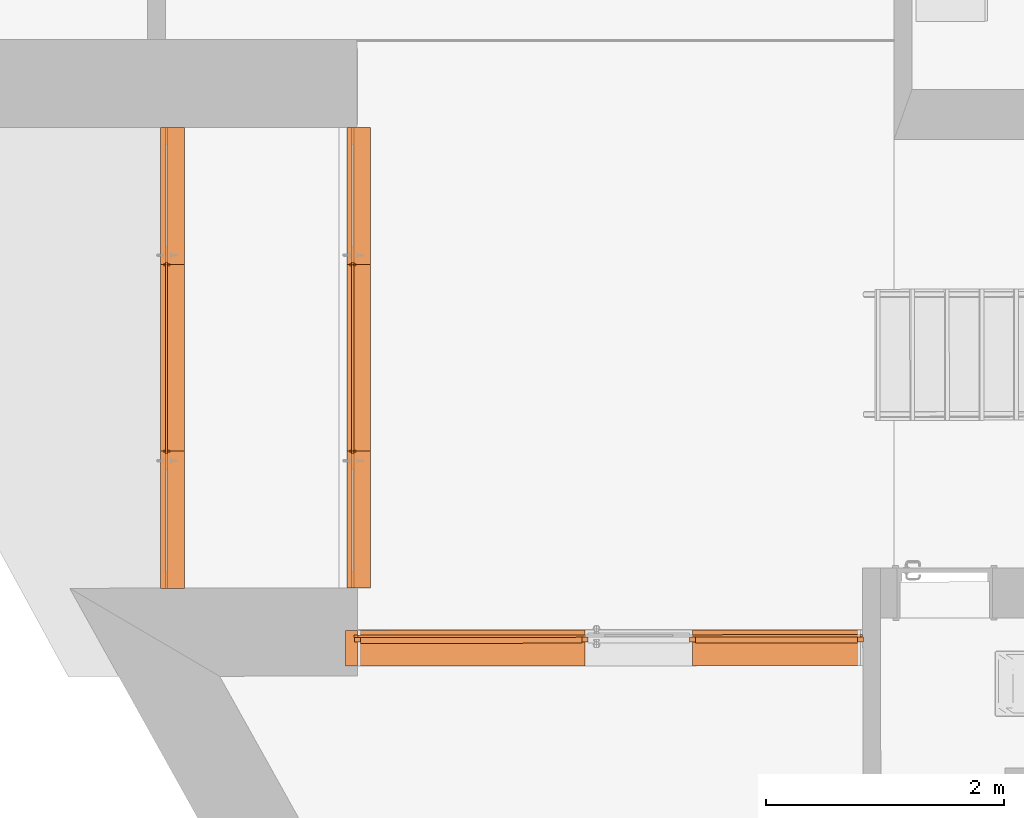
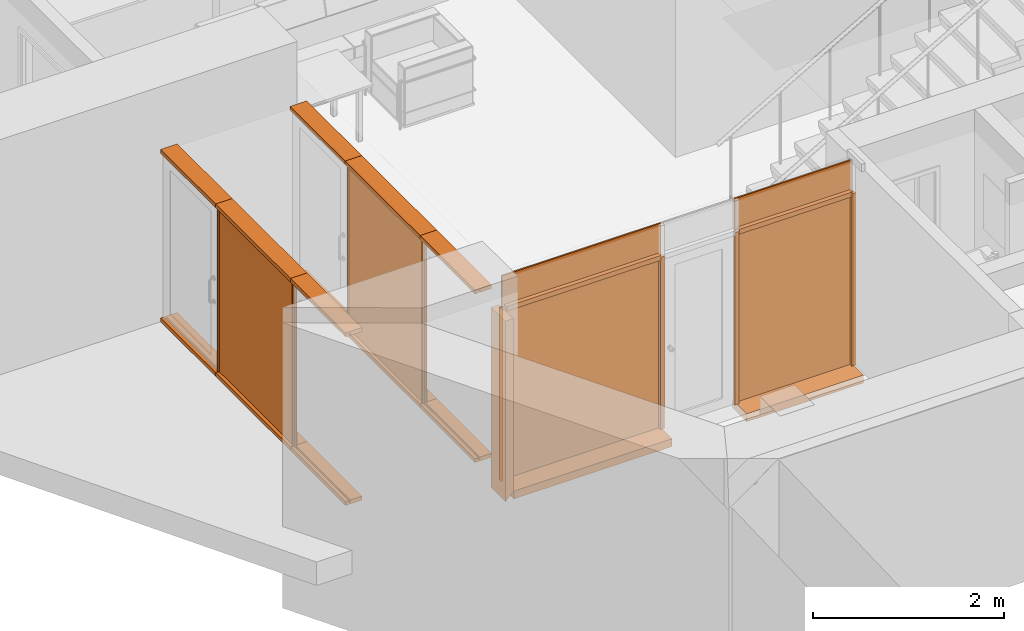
# One storey, part 114 of 127: 33 proxies, 3 elements without a shape of their own.
"""IFC2X3 building model written with IfcOpenShell, lengths in millimetres."""

from ifc_helpers import new_model, entity, si_unit, converted_unit, derived_unit, money_unit, direction, frame, origin_with_axes, place, context, subcontext, project, spatial, polyline, outline, extrude, clip, halfspace, material, material_list, type_object, element, aggregate, save


model = new_model("IFC2X3")

# Units and contexts
model_context = context("Model", 3, precision=1e-05, world=origin_with_axes(), true_north=direction((0.0, 1.0)))
body_context = subcontext(model_context, "Body", "Model", "MODEL_VIEW")
ifc_project = project(units=[si_unit("LENGTHUNIT", "METRE", prefix="MILLI"), si_unit("AREAUNIT", "SQUARE_METRE"), si_unit("VOLUMEUNIT", "CUBIC_METRE"), converted_unit("PLANEANGLEUNIT", "DEGREE", entity("IfcPlaneAngleMeasure", 0.0174532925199), si_unit("PLANEANGLEUNIT", "RADIAN"), dimensions=[0, 0, 0, 0, 0, 0, 0]), si_unit("SOLIDANGLEUNIT", "STERADIAN"), money_unit("EUR"), converted_unit("TIMEUNIT", "Year", entity("IfcTimeMeasure", 31556926.0), si_unit("TIMEUNIT", "SECOND"), dimensions=[0, 0, 1, 0, 0, 0, 0]), si_unit("MASSUNIT", "GRAM", prefix="KILO"), si_unit("THERMODYNAMICTEMPERATUREUNIT", "DEGREE_CELSIUS"), si_unit("LUMINOUSINTENSITYUNIT", "LUMEN"), si_unit("ENERGYUNIT", "JOULE", prefix="MEGA"), derived_unit("THERMALCONDUCTANCEUNIT", [(si_unit("POWERUNIT", "WATT"), 1), (si_unit("LENGTHUNIT", "METRE"), -1), (si_unit("THERMODYNAMICTEMPERATUREUNIT", "KELVIN"), -1)]), derived_unit("SPECIFICHEATCAPACITYUNIT", [(si_unit("ENERGYUNIT", "JOULE"), 1), (si_unit("MASSUNIT", "GRAM", prefix="KILO"), -1), (si_unit("THERMODYNAMICTEMPERATUREUNIT", "KELVIN"), -1)]), derived_unit("MASSDENSITYUNIT", [(si_unit("MASSUNIT", "GRAM", prefix="KILO"), 1), (si_unit("VOLUMEUNIT", "CUBIC_METRE"), -1)])], contexts=[model_context])

# Site, building, storey
site_placement = place(None, origin_with_axes())
site = spatial("IfcSite", under=ifc_project, at=site_placement, Name="Site", CompositionType="ELEMENT")
building_placement = place(site_placement, origin_with_axes())
building = spatial("IfcBuilding", under=site, at=building_placement, Name="Building", CompositionType="ELEMENT")
storey_placement = place(building_placement, origin_with_axes())
storey = spatial("IfcBuildingStorey", under=building, at=storey_placement, Name="1 KORRUS", CompositionType="ELEMENT", Elevation=0.0)

# Curtain wall, proxy
curtain_wall_type_1 = type_object("IfcCurtainWallType", Name="VU-2", PredefinedType="NOTDEFINED")
curtain_wall_1_placement = place(storey_placement, frame((18897.7258144, 42128.0459009, 25.0), z_axis=(0.0, 0.0, 1.0), x_axis=(1.0, 0.0, 0.0)))
curtain_wall_1 = element("IfcCurtainWall", 1, at=curtain_wall_1_placement, inside=storey, type_object=curtain_wall_type_1, Name="Välisuks")
ifc_material_1 = material(Name="Klaas (1)")
building_element_proxy_type_1 = type_object("IfcBuildingElementProxyType", Name="Panel-Main-004", PredefinedType="NOTDEFINED")
proxy_1_placement = place(curtain_wall_1_placement, frame((0.0, -1357.77395773, 1075.0), z_axis=(0.0, 0.0, 1.0), x_axis=(0.0, 1.0, 0.0)))
proxy_1 = element("IfcBuildingElementProxy", 2, at=proxy_1_placement, type_object=building_element_proxy_type_1, material=ifc_material_1, Name="Klaas (1);  Objekti nimi: Built-in CW Panel", context=body_context, shape_type="SweptSolid", body=[
    extrude(outline(polyline([(-782.773957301, -1080.0), (782.773950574, -1080.0), (782.773950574, -1075.00001431), (802.773957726, -1075.00001431), (802.773957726, 1075.00001431), (782.773950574, 1074.99998212), (782.773950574, 1080.0), (-782.773989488, 1080.0), (-782.773989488, 1074.99998212), (-802.773964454, 1074.99998212), (-802.773964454, -1075.00001431), (-782.773957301, -1075.00001431), (-782.773957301, -1080.0)])), frame((0.0, -9.99999999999, 0.0), z_axis=(0.0, 1.0, 0.0), x_axis=(1.0, 0.0, 0.0)), (0.0, 0.0, 1.0), 20.0),
])

curtain_wall_type_2 = type_object("IfcCurtainWallType", Name="SU-2", PredefinedType="NOTDEFINED")
curtain_wall_2_placement = place(storey_placement, frame((20461.0776503, 42128.0462024, 25.0), z_axis=(0.0, 0.0, 1.0), x_axis=(1.0, 0.0, 0.0)))
curtain_wall_2 = element("IfcCurtainWall", 3, at=curtain_wall_2_placement, inside=storey, type_object=curtain_wall_type_2, Name="Siseuks")
proxy_2_placement = place(curtain_wall_2_placement, frame((-0.0408153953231, -1357.71344018, 1075.0), z_axis=(0.0, 0.0, 1.0), x_axis=(3.00618629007e-05, 0.999999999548, 0.0)))
proxy_2 = element("IfcBuildingElementProxy", 4, at=proxy_2_placement, type_object=building_element_proxy_type_1, material=ifc_material_1, Name="Klaas (1);  Objekti nimi: Built-in CW Panel", context=body_context, shape_type="SweptSolid", body=[
    extrude(outline(polyline([(-782.713452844, -1080.0), (782.713433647, -1080.0), (782.713433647, -1075.00001431), (802.713440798, -1075.00001431), (802.713440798, 1075.00001431), (782.713433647, 1074.99998212), (782.713433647, 1080.0), (-782.713452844, 1080.0), (-782.713452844, 1074.99998212), (-802.713459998, 1074.99998212), (-802.713459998, -1075.00001431), (-782.713452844, -1075.00001431), (-782.713452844, -1080.0)])), frame((0.0, -9.99999999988, 0.0), z_axis=(0.0, 1.0, 0.0), x_axis=(1.0, 0.0, 0.0)), (0.0, 0.0, 1.0), 20.0000000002),
])

# Proxy
ifc_material_2 = material(Name="Alumiinium (1)")
building_element_proxy_type_2 = type_object("IfcBuildingElementProxyType", Name="Frame-Bnd-126", PredefinedType="NOTDEFINED")
proxy_3_placement = place(curtain_wall_1_placement, frame((0.0, 575.000000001, 0.0), z_axis=(0.0, -1.0, 0.0), x_axis=(0.0, 0.0, 1.0)))
proxy_3 = element("IfcBuildingElementProxy", 5, at=proxy_3_placement, type_object=building_element_proxy_type_2, material=ifc_material_2, Name="Alumiinium (1);  Objekti nimi: Built-in Frame", context=body_context, shape_type="SweptSolid", body=[
    extrude(outline(polyline([(-9.99999999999, 0.0), (9.99999999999, 0.0), (9.99999999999, -25.0), (50.0, -25.0), (50.0, 25.0), (-150.0, 25.0), (-150.0, -25.0), (-9.99999999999, -25.0), (-9.99999999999, 0.0)])), frame((0.0, 0.0, 0.0), z_axis=(0.0, 0.0, 1.0), x_axis=(0.0, 1.0, 0.0)), (0.0, 0.0, 1.0), 1150.0),
])

proxy_4_placement = place(curtain_wall_1_placement, frame((0.0, 575.000000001, 2150.0), z_axis=(0.0, -1.0, 0.0), x_axis=(0.0, 0.0, 1.0)))
proxy_4 = element("IfcBuildingElementProxy", 6, at=proxy_4_placement, type_object=building_element_proxy_type_2, material=ifc_material_2, Name="Alumiinium (1);  Objekti nimi: Built-in Frame", context=body_context, shape_type="SweptSolid", body=[
    extrude(outline(polyline([(-9.99999999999, 0.0), (-9.99999999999, 25.0), (-150.0, 25.0), (-150.0, -25.0), (50.0, -25.0), (50.0, 25.0), (9.99999999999, 25.0), (9.99999999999, 0.0), (-9.99999999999, 0.0)])), frame((0.0, 0.0, 0.0), z_axis=(0.0, 0.0, 1.0), x_axis=(0.0, 1.0, 0.0)), (0.0, 0.0, 1.0), 1150.0),
])

proxy_5_placement = place(curtain_wall_1_placement, frame((0.0, -2140.54791545, 0.0), z_axis=(0.0, -1.0, 0.0), x_axis=(0.0, 0.0, 1.0)))
proxy_5 = element("IfcBuildingElementProxy", 7, at=proxy_5_placement, type_object=building_element_proxy_type_2, material=ifc_material_2, Name="Alumiinium (1);  Objekti nimi: Built-in Frame", context=body_context, shape_type="SweptSolid", body=[
    extrude(outline(polyline([(-9.99999999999, 0.0), (9.99999999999, 0.0), (9.99999999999, -25.0), (50.0, -25.0), (50.0, 25.0), (-150.0, 25.0), (-150.0, -25.0), (-9.99999999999, -25.0), (-9.99999999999, 0.0)])), frame((0.0, 0.0, 0.0), z_axis=(0.0, 0.0, 1.0), x_axis=(0.0, 1.0, 0.0)), (0.0, 0.0, 1.0), 1150.0),
])

proxy_6_placement = place(curtain_wall_1_placement, frame((0.0, -2140.54791545, 2150.0), z_axis=(0.0, -1.0, 0.0), x_axis=(0.0, 0.0, 1.0)))
proxy_6 = element("IfcBuildingElementProxy", 8, at=proxy_6_placement, type_object=building_element_proxy_type_2, material=ifc_material_2, Name="Alumiinium (1);  Objekti nimi: Built-in Frame", context=body_context, shape_type="SweptSolid", body=[
    extrude(outline(polyline([(-9.99999999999, 0.0), (-9.99999999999, 25.0), (-150.0, 25.0), (-150.0, -25.0), (50.0, -25.0), (50.0, 25.0), (9.99999999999, 25.0), (9.99999999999, 0.0), (-9.99999999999, 0.0)])), frame((0.0, 0.0, 0.0), z_axis=(0.0, 0.0, 1.0), x_axis=(0.0, 1.0, 0.0)), (0.0, 0.0, 1.0), 1150.0),
])

proxy_7_placement = place(curtain_wall_1_placement, frame((0.0, -575.000000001, 2150.0), z_axis=(0.0, -1.0, 0.0), x_axis=(0.0, 0.0, 1.0)))
proxy_7 = element("IfcBuildingElementProxy", 9, at=proxy_7_placement, type_object=building_element_proxy_type_2, material=ifc_material_2, Name="Alumiinium (1);  Objekti nimi: Built-in Frame", context=body_context, shape_type="SweptSolid", body=[
    extrude(outline(polyline([(-9.99999999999, 0.0), (-9.99999999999, 25.0), (-150.0, 25.0), (-150.0, -25.0), (50.0, -25.0), (50.0, 25.0), (9.99999999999, 25.0), (9.99999999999, 0.0), (-9.99999999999, 0.0)])), frame((0.0, 0.0, 0.0), z_axis=(0.0, 0.0, 1.0), x_axis=(0.0, 1.0, 0.0)), (0.0, 0.0, 1.0), 1565.54791546),
])

proxy_8_placement = place(curtain_wall_1_placement, frame((0.0, -575.000000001, 0.0), z_axis=(0.0, -1.0, 0.0), x_axis=(0.0, 0.0, 1.0)))
proxy_8 = element("IfcBuildingElementProxy", 10, at=proxy_8_placement, type_object=building_element_proxy_type_2, material=ifc_material_2, Name="Alumiinium (1);  Objekti nimi: Built-in Frame", context=body_context, shape_type="SweptSolid", body=[
    extrude(outline(polyline([(-9.99999999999, 0.0), (9.99999999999, 0.0), (9.99999999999, -25.0), (50.0, -25.0), (50.0, 25.0), (-150.0, 25.0), (-150.0, -25.0), (-9.99999999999, -25.0), (-9.99999999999, 0.0)])), frame((0.0, 0.0, 0.0), z_axis=(0.0, 0.0, 1.0), x_axis=(0.0, 1.0, 0.0)), (0.0, 0.0, 1.0), 1565.54791546),
])

ifc_material_list = material_list([ifc_material_2, ifc_material_2])
building_element_proxy_type_3 = type_object("IfcBuildingElementProxyType", Name="Frame-Mll-040", PredefinedType="NOTDEFINED")
proxy_9_placement = place(curtain_wall_1_placement, frame((0.0, -575.000000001, 0.0), z_axis=(0.0, 0.0, 1.0), x_axis=(0.0, 1.0, 0.0)))
proxy_9 = element("IfcBuildingElementProxy", 11, at=proxy_9_placement, type_object=building_element_proxy_type_3, material=ifc_material_list, Name="Alumiinium (1);  Objekti nimi: Built-in Frame", context=body_context, shape_type="SweptSolid", body=[
    extrude(outline(polyline([(9.99999999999, -10.0000000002), (25.0, -10.0000000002), (25.0, 10.0000000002), (9.99999999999, 10.0000000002), (9.99999999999, -10.0000000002)])), frame((0.0, 0.0, 25.0), z_axis=(0.0, 0.0, 1.0), x_axis=(0.0, -1.0, 0.0)), (0.0, 0.0, 1.0), 2100.0),
    extrude(outline(polyline([(-9.99999999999, -10.0000000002), (-9.99999999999, 10.0000000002), (-25.0, 10.0000000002), (-25.0, -10.0000000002), (-9.99999999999, -10.0000000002)])), frame((0.0, 0.0, 25.0), z_axis=(0.0, 0.0, 1.0), x_axis=(0.0, -1.0, 0.0)), (0.0, 0.0, 1.0), 2100.0),
])

proxy_10_placement = place(curtain_wall_1_placement, frame((0.0, -2140.54791545, 0.0), z_axis=(0.0, 0.0, 1.0), x_axis=(0.0, 1.0, 0.0)))
proxy_10 = element("IfcBuildingElementProxy", 12, at=proxy_10_placement, type_object=building_element_proxy_type_3, material=ifc_material_list, Name="Alumiinium (1);  Objekti nimi: Built-in Frame", context=body_context, shape_type="SweptSolid", body=[
    extrude(outline(polyline([(9.99999999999, -10.0000000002), (25.0, -10.0000000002), (25.0, 10.0000000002), (9.99999999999, 10.0000000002), (9.99999999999, -10.0000000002)])), frame((0.0, 0.0, 25.0), z_axis=(0.0, 0.0, 1.0), x_axis=(0.0, -1.0, 0.0)), (0.0, 0.0, 1.0), 2100.0),
    extrude(outline(polyline([(-9.99999999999, -10.0000000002), (-9.99999999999, 10.0000000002), (-25.0, 10.0000000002), (-25.0, -10.0000000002), (-9.99999999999, -10.0000000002)])), frame((0.0, 0.0, 25.0), z_axis=(0.0, 0.0, 1.0), x_axis=(0.0, -1.0, 0.0)), (0.0, 0.0, 1.0), 2100.0),
])

aggregate(curtain_wall_1, [proxy_1, proxy_3, proxy_4, proxy_9, proxy_5, proxy_6, proxy_7, proxy_10, proxy_8])

proxy_11_placement = place(curtain_wall_2_placement, frame((-0.0643452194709, -2140.42688063, 0.0), z_axis=(0.0, 0.0, 1.0), x_axis=(3.00618627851e-05, 0.999999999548, 0.0)))
proxy_11 = element("IfcBuildingElementProxy", 13, at=proxy_11_placement, type_object=building_element_proxy_type_3, material=ifc_material_list, Name="Alumiinium (1);  Objekti nimi: Built-in Frame", context=body_context, shape_type="SweptSolid", body=[
    extrude(outline(polyline([(9.99969937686, -10.0003006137), (24.99969937, -10.0007515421), (25.0003006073, 9.99924844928), (10.0003006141, 9.99969937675), (9.99969937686, -10.0003006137)])), frame((0.0, 0.0, 25.0), z_axis=(0.0, 0.0, 1.0), x_axis=(3.00618627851e-05, -0.999999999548, 0.0)), (0.0, 0.0, 1.0), 2100.0),
    extrude(outline(polyline([(-10.0003006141, -9.99969937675), (-9.99969937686, 10.0003006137), (-24.99969937, 10.0007515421), (-25.0003006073, -9.99924844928), (-10.0003006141, -9.99969937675)])), frame((0.0, 0.0, 25.0), z_axis=(0.0, 0.0, 1.0), x_axis=(3.00618627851e-05, -0.999999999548, 0.0)), (0.0, 0.0, 1.0), 2100.0),
])

proxy_12_placement = place(curtain_wall_2_placement, frame((-0.0172855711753, -574.999999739, 0.0), z_axis=(0.0, 0.0, 1.0), x_axis=(3.00618627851e-05, 0.999999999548, 0.0)))
proxy_12 = element("IfcBuildingElementProxy", 14, at=proxy_12_placement, type_object=building_element_proxy_type_3, material=ifc_material_list, Name="Alumiinium (1);  Objekti nimi: Built-in Frame", context=body_context, shape_type="SweptSolid", body=[
    extrude(outline(polyline([(9.99969937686, -10.0003006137), (24.99969937, -10.0007515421), (25.0003006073, 9.99924844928), (10.0003006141, 9.99969937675), (9.99969937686, -10.0003006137)])), frame((0.0, 0.0, 25.0), z_axis=(0.0, 0.0, 1.0), x_axis=(3.00618627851e-05, -0.999999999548, 0.0)), (0.0, 0.0, 1.0), 2100.0),
    extrude(outline(polyline([(-10.0003006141, -9.99969937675), (-9.99969937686, 10.0003006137), (-24.99969937, 10.0007515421), (-25.0003006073, -9.99924844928), (-10.0003006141, -9.99969937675)])), frame((0.0, 0.0, 25.0), z_axis=(0.0, 0.0, 1.0), x_axis=(3.00618627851e-05, -0.999999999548, 0.0)), (0.0, 0.0, 1.0), 2100.0),
])

# Curtain wall, proxies
curtain_wall_type_3 = type_object("IfcCurtainWallType", Name="SKS-2", PredefinedType="NOTDEFINED")
curtain_wall_3_placement = place(storey_placement, frame((24016.5741865, 38437.6405543, -0.000166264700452), z_axis=(0.0, 0.0, 1.0), x_axis=(1.0, 0.0, 0.0)))
curtain_wall_3 = element("IfcCurtainWall", 15, at=curtain_wall_3_placement, inside=storey, type_object=curtain_wall_type_3, Name="Klaassein")
building_element_proxy_type_4 = type_object("IfcBuildingElementProxyType", Name="Panel-Main-412", PredefinedType="NOTDEFINED")
proxy_13_placement = place(curtain_wall_3_placement, frame((0.0, 0.0, 1100.0), z_axis=(0.0, 0.0, 1.0), x_axis=(0.999999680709, 0.000799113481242, 0.0)))
proxy_13 = element("IfcBuildingElementProxy", 16, at=proxy_13_placement, type_object=building_element_proxy_type_4, material=ifc_material_1, Name="Klaas (1);  Objekti nimi: Built-in CW Panel", context=body_context, shape_type="SweptSolid", body=[
    extrude(outline(polyline([(-710.000005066, -1100.0), (-705.000010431, -1100.0), (-704.999977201, -1095.00000536), (705.000005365, -1095.00000536), (705.000005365, -1100.0), (710.0, -1100.0), (710.0, 1099.99999896), (705.000005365, 1099.99999896), (705.000005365, 1130.0), (-704.999977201, 1130.0), (-705.000010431, 1099.99999896), (-710.000005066, 1099.99999896), (-710.000005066, -1100.0)])), frame((0.0, -9.99999999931, 0.0), z_axis=(0.0, 1.0, 0.0), x_axis=(1.0, 0.0, 0.0)), (0.0, 0.0, 1.0), 19.9999999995),
])
building_element_proxy_type_5 = type_object("IfcBuildingElementProxyType", Name="Panel-Main-423", PredefinedType="NOTDEFINED")
proxy_14_placement = place(curtain_wall_3_placement, frame((-3515.69521587, -2.80944034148, 1100.0), z_axis=(0.0, 0.0, 1.0), x_axis=(0.999999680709, 0.000799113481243, 0.0)))
proxy_14 = element("IfcBuildingElementProxy", 17, at=proxy_14_placement, type_object=building_element_proxy_type_5, material=ifc_material_1, Name="Klaas (1);  Objekti nimi: Built-in CW Panel", context=body_context, shape_type="SweptSolid", body=[
    extrude(outline(polyline([(-30.6963439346, -1100.0), (-0.696342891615, -1100.0), (-0.696342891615, -1095.00000536), (0.696343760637, -1095.00000536), (0.696343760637, -1100.0), (5.69633839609, -1100.0), (5.69633839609, 1099.99999896), (0.696343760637, 1099.99999896), (0.696343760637, 1130.0), (-0.696342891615, 1130.0), (-0.696342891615, 1099.99999896), (-30.6963439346, 1099.99999896), (-30.6963439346, -1100.0)])), frame((0.0, -10.0000000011, 0.0), z_axis=(0.0, 1.0, 0.0), x_axis=(1.0, 0.0, 0.0)), (0.0, 0.0, 1.0), 20.0000000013),
])
building_element_proxy_type_6 = type_object("IfcBuildingElementProxyType", Name="Panel-Main-413", PredefinedType="NOTDEFINED")
proxy_15_placement = place(curtain_wall_3_placement, frame((-2559.99918261, -2.04573051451, 1100.0), z_axis=(0.0, 0.0, 1.0), x_axis=(0.999999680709, 0.000799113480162, 0.0)))
proxy_15 = element("IfcBuildingElementProxy", 18, at=proxy_15_placement, type_object=building_element_proxy_type_6, material=ifc_material_1, Name="Klaas (1);  Objekti nimi: Built-in CW Panel", context=body_context, shape_type="SweptSolid", body=[
    extrude(outline(polyline([(-960.000000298, -1100.0), (-955.000005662, -1100.0), (-955.000005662, -1095.00000536), (955.000005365, -1095.00000536), (955.000005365, -1100.0), (960.0, -1100.0), (960.0, 1099.99999896), (955.000005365, 1099.99999896), (955.000005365, 1130.0), (-955.000005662, 1130.0), (-955.000005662, 1099.99999896), (-960.000000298, 1099.99999896), (-960.000000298, -1100.0)])), frame((0.0, -10.0000000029, 0.0), z_axis=(0.0, 1.0, 0.0), x_axis=(1.0, 0.0, 0.0)), (0.0, 0.0, 1.0), 20.0000000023),
])
building_element_proxy_type_7 = type_object("IfcBuildingElementProxyType", Name="Panel-Main-420", PredefinedType="NOTDEFINED")
proxy_16_placement = place(curtain_wall_3_placement, frame((-2559.99918261, -2.04573051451, 2400.0), z_axis=(0.0, 0.0, 1.0), x_axis=(0.999999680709, 0.000799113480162, 0.0)))
proxy_16 = element("IfcBuildingElementProxy", 19, at=proxy_16_placement, type_object=building_element_proxy_type_7, material=ifc_material_1, Name="Klaas (1);  Objekti nimi: Built-in CW Panel", context=body_context, shape_type="SweptSolid", body=[
    extrude(outline(polyline([(-960.0, -200.0), (960.0, -200.0), (960.0, 200.0), (955.000014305, 200.0), (955.000014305, 195.000014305), (-954.999985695, 195.000014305), (-954.999985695, 200.0), (-960.0, 200.0), (-960.0, -200.0)])), frame((0.0, -10.000000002, 0.0), z_axis=(0.0, 1.0, 0.0), x_axis=(1.0, 0.0, 0.0)), (0.0, 0.0, 1.0), 20.0000000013),
])
building_element_proxy_type_8 = type_object("IfcBuildingElementProxyType", Name="Panel-Main-415", PredefinedType="NOTDEFINED")
proxy_17_placement = place(curtain_wall_3_placement, frame((714.631553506, 0.5710718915, 1100.0), z_axis=(0.0, 0.0, 1.0), x_axis=(0.999999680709, 0.000799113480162, 0.0)))
proxy_17 = element("IfcBuildingElementProxy", 20, at=proxy_17_placement, type_object=building_element_proxy_type_8, material=ifc_material_1, Name="Klaas (1);  Objekti nimi: Built-in CW Panel", context=body_context, shape_type="SweptSolid", body=[
    extrude(outline(polyline([(-14.6317898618, -1100.0), (-9.63179522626, -1100.0), (-9.63179522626, -1095.00000536), (9.63178168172, -1095.00000536), (9.63178168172, 1130.0), (-9.63176199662, 1130.0), (-9.63179522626, 1099.99999896), (-14.6317898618, 1099.99999896), (-14.6317898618, -1100.0)])), frame((-1.13686837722e-10, -10.0000000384, 0.0), z_axis=(0.0, 1.0, 0.0), x_axis=(1.0, 0.0, 0.0)), (0.0, 0.0, 1.0), 20.0000000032),
])
building_element_proxy_type_9 = type_object("IfcBuildingElementProxyType", Name="Panel-Main-419", PredefinedType="NOTDEFINED")
proxy_18_placement = place(curtain_wall_3_placement, frame((0.0, 0.0, 2400.0), z_axis=(0.0, 0.0, 1.0), x_axis=(0.999999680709, 0.000799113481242, 0.0)))
proxy_18 = element("IfcBuildingElementProxy", 21, at=proxy_18_placement, type_object=building_element_proxy_type_9, material=ifc_material_1, Name="Klaas (1);  Objekti nimi: Built-in CW Panel", context=body_context, shape_type="SweptSolid", body=[
    extrude(outline(polyline([(-710.0, -200.000014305), (710.0, -199.999993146), (710.0, 200.0), (704.999991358, 200.0), (704.999991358, 195.000012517), (-704.999991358, 195.000012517), (-704.999991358, 200.0), (-710.0, 200.0), (-710.0, -200.000014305)])), frame((0.0, -10.0000000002, 0.0), z_axis=(0.0, 1.0, 0.0), x_axis=(1.0, 0.0, 0.0)), (0.0, 0.0, 1.0), 20.0000000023),
])
building_element_proxy_type_10 = type_object("IfcBuildingElementProxyType", Name="Frame-Bnd-455", PredefinedType="NOTDEFINED")
proxy_19_placement = place(curtain_wall_3_placement, frame((704.9997749, 0.563375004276, 0.0), z_axis=(-0.999999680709, -0.000799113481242, 0.0), x_axis=(0.0, 0.0, 1.0)))
proxy_19 = element("IfcBuildingElementProxy", 22, at=proxy_19_placement, type_object=building_element_proxy_type_10, material=ifc_material_2, Name="Alumiinium (1);  Objekti nimi: Built-in Frame", context=body_context, shape_type="SweptSolid", body=[
    extrude(outline(polyline([(-10.0000000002, 30.0), (9.99999999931, 30.0), (9.99999999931, 0.0), (49.9999999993, 0.0), (49.9999999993, 100.0), (-250.000000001, 100.0), (-250.000000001, 0.0), (-10.0000000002, 0.0), (-10.0000000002, 30.0)])), frame((0.0, 0.0, -2.72848410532e-09), z_axis=(0.0, 0.0, 1.0), x_axis=(0.0, 1.0, 0.0)), (0.0, 0.0, 1.0), 1410.0),
])
building_element_proxy_type_11 = type_object("IfcBuildingElementProxyType", Name="Frame-Mll-595", PredefinedType="NOTDEFINED")
proxy_20_placement = place(curtain_wall_3_placement, frame((-704.9997749, -0.563375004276, 0.0), z_axis=(0.0, 0.0, 1.0), x_axis=(0.999999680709, 0.000799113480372, 0.0)))
proxy_20 = element("IfcBuildingElementProxy", 23, at=proxy_20_placement, type_object=building_element_proxy_type_11, material=ifc_material_2, Name="Alumiinium (1);  Objekti nimi: Frame 22", context=body_context, shape_type="SweptSolid", body=[
    extrude(outline(polyline([(-24.9920008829, -10.0199746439), (-24.9600363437, -50.0199618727), (25.0399476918, -49.980006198), (25.0079831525, -9.98001897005), (-24.9920008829, -10.0199746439)])), frame((0.0, 0.0, 0.0), z_axis=(0.0, 0.0, 1.0), x_axis=(0.999999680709, -0.000799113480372, 0.0)), (0.0, 0.0, 1.0), 2200.0),
])
building_element_proxy_type_12 = type_object("IfcBuildingElementProxyType", Name="Frame-Trs-825", PredefinedType="NOTDEFINED")
proxy_21_placement = place(curtain_wall_3_placement, frame((-1604.99948754, -1.28257714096, 2200.0), z_axis=(-0.999999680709, -0.000799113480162, 0.0), x_axis=(0.0, 0.0, 1.0)))
proxy_21 = element("IfcBuildingElementProxy", 24, at=proxy_21_placement, type_object=building_element_proxy_type_12, material=ifc_material_2, Name="Alumiinium (1);  Objekti nimi: Built-in Butt-glazed Frame", context=body_context, shape_type="SweptSolid", body=[
    extrude(outline(polyline([(-60.0000000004, -30.0), (-10.0000000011, -30.0), (-10.0000000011, 30.0), (-60.0000000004, 30.0), (-60.0000000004, -30.0)])), frame((0.0, 0.0, 24.9999999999), z_axis=(0.0, 0.0, 1.0), x_axis=(0.0, 1.0, 0.0)), (0.0, 0.0, 1.0), 1860.0),
])
building_element_proxy_type_13 = type_object("IfcBuildingElementProxyType", Name="Frame-Bnd-459", PredefinedType="NOTDEFINED")
proxy_22_placement = place(curtain_wall_3_placement, frame((-3516.39155404, -2.80999679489, 0.0), z_axis=(0.0, 0.0, 1.0), x_axis=(0.999999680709, 0.000799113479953, 0.0)))
proxy_22 = element("IfcBuildingElementProxy", 25, at=proxy_22_placement, type_object=building_element_proxy_type_13, material=ifc_material_2, Name="Alumiinium (1);  Objekti nimi: Built-in Frame", context=body_context, shape_type="Clipping", body=[
    clip(extrude(outline(polyline([(-29.9919992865, -10.0239702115), (-30.0079815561, 9.97602340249), (-0.00799113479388, 9.99999680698), (-0.0399556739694, 49.9999840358), (-100.039923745, 49.9200726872), (-99.8001897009, -250.079831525), (0.199778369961, -249.999920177), (0.00799113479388, -9.99999680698), (-29.9919992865, -10.0239702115)])), frame((0.0, 0.0, -100.0), z_axis=(0.0, 0.0, 1.0), x_axis=(0.999999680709, -0.000799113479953, 0.0)), (0.0, 0.0, 1.0), 2300.0), halfspace(frame((5.00800615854e-10, 0.0, -5.00800615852e-10), z_axis=(-0.707106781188, 0.0, 0.707106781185), x_axis=(0.0, -1.0, 0.0)), True)),
])
building_element_proxy_type_14 = type_object("IfcBuildingElementProxyType", Name="Frame-Mll-596", PredefinedType="NOTDEFINED")
proxy_23_placement = place(curtain_wall_3_placement, frame((-1604.99948754, -1.28257714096, 0.0), z_axis=(0.0, 0.0, 1.0), x_axis=(0.999999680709, 0.000799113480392, 0.0)))
proxy_23 = element("IfcBuildingElementProxy", 26, at=proxy_23_placement, type_object=building_element_proxy_type_14, material=ifc_material_2, Name="Alumiinium (1);  Objekti nimi: Frame 22", context=body_context, shape_type="SweptSolid", body=[
    extrude(outline(polyline([(-24.9920008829, -10.0199746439), (-24.9600363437, -50.0199618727), (25.0399476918, -49.980006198), (25.0079831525, -9.98001897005), (-24.9920008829, -10.0199746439)])), frame((0.0, 0.0, 0.0), z_axis=(0.0, 0.0, 1.0), x_axis=(0.999999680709, -0.000799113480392, 0.0)), (0.0, 0.0, 1.0), 2200.0),
])
building_element_proxy_type_15 = type_object("IfcBuildingElementProxyType", Name="Frame-Bnd-457", PredefinedType="NOTDEFINED")
proxy_24_placement = place(curtain_wall_3_placement, frame((-1604.99948754, -1.28257714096, 0.0), z_axis=(-0.999999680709, -0.000799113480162, 0.0), x_axis=(0.0, 0.0, 1.0)))
proxy_24 = element("IfcBuildingElementProxy", 27, at=proxy_24_placement, type_object=building_element_proxy_type_15, material=ifc_material_2, Name="Alumiinium (1);  Objekti nimi: Built-in Frame", context=body_context, shape_type="SweptSolid", body=[
    extrude(outline(polyline([(-10.0000000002, 30.0), (9.99999999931, 30.0), (9.99999999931, 0.0), (49.9999999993, 0.0), (49.9999999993, 100.0), (-250.0, 100.0), (-250.0, 0.0), (-10.0000000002, 0.0), (-10.0000000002, 30.0)])), frame((0.0, 0.0, -9.09494701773e-10), z_axis=(0.0, 0.0, 1.0), x_axis=(0.0, 1.0, 0.0)), (0.0, 0.0, 1.0), 1910.0),
])
building_element_proxy_type_16 = type_object("IfcBuildingElementProxyType", Name="Frame-Mll-603", PredefinedType="NOTDEFINED")
proxy_25_placement = place(curtain_wall_3_placement, frame((704.9997749, 0.563375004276, 0.0), z_axis=(0.0, 0.0, 1.0), x_axis=(0.999999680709, 0.000799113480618, 0.0)))
proxy_25 = element("IfcBuildingElementProxy", 28, at=proxy_25_placement, type_object=building_element_proxy_type_16, material=ifc_material_2, Name="Alumiinium (1);  Objekti nimi: Frame 22", context=body_context, shape_type="SweptSolid", body=[
    extrude(outline(polyline([(-24.9920008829, -10.0199746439), (-24.9600363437, -50.0199618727), (25.0399476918, -49.980006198), (25.0079831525, -9.98001897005), (-24.9920008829, -10.0199746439)])), frame((0.0, 0.0, 0.0), z_axis=(0.0, 0.0, 1.0), x_axis=(0.999999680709, -0.000799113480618, 0.0)), (0.0, 0.0, 1.0), 2200.0),
])
building_element_proxy_type_17 = type_object("IfcBuildingElementProxyType", Name="Frame-Mll-658", PredefinedType="NOTDEFINED")
proxy_26_placement = place(curtain_wall_3_placement, frame((-3514.99887769, -2.80888388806, 0.0), z_axis=(0.0, 0.0, 1.0), x_axis=(0.999999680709, 0.000799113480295, 0.0)))
proxy_26 = element("IfcBuildingElementProxy", 29, at=proxy_26_placement, type_object=building_element_proxy_type_17, material=ifc_material_2, Name="Alumiinium (1);  Objekti nimi: Frame 22", context=body_context, shape_type="SweptSolid", body=[
    extrude(outline(polyline([(-24.9920008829, -10.0199746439), (-24.9600363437, -50.0199618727), (25.0399476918, -49.980006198), (25.0079831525, -9.98001897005), (-24.9920008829, -10.0199746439)])), frame((0.0, 0.0, 0.0), z_axis=(0.0, 0.0, 1.0), x_axis=(0.999999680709, -0.000799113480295, 0.0)), (0.0, 0.0, 1.0), 2200.0),
])
building_element_proxy_type_18 = type_object("IfcBuildingElementProxyType", Name="Frame-Trs-809", PredefinedType="NOTDEFINED")
proxy_27_placement = place(curtain_wall_3_placement, frame((704.9997749, 0.563375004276, 2200.0), z_axis=(-0.999999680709, -0.000799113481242, 0.0), x_axis=(0.0, 0.0, 1.0)))
proxy_27 = element("IfcBuildingElementProxy", 30, at=proxy_27_placement, type_object=building_element_proxy_type_18, material=ifc_material_2, Name="Alumiinium (1);  Objekti nimi: Built-in Butt-glazed Frame", context=body_context, shape_type="SweptSolid", body=[
    extrude(outline(polyline([(-60.0000000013, -30.0), (-10.0000000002, -30.0), (-10.0000000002, 30.0), (-60.0000000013, 30.0), (-60.0000000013, -30.0)])), frame((0.0, 0.0, 25.0000000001), z_axis=(0.0, 0.0, 1.0), x_axis=(0.0, 1.0, 0.0)), (0.0, 0.0, 1.0), 1360.0),
])
aggregate(curtain_wall_3, [proxy_13, proxy_14, proxy_15, proxy_16, proxy_17, proxy_18, proxy_19, proxy_20, proxy_21, proxy_22, proxy_23, proxy_24, proxy_25, proxy_26, proxy_27])

# Proxy
building_element_proxy_type_19 = type_object("IfcBuildingElementProxyType", Name="Frame-Bnd-134", PredefinedType="NOTDEFINED")
proxy_28_placement = place(curtain_wall_2_placement, frame((0.0172855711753, 574.999999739, 0.0), z_axis=(-3.00618629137e-05, -0.999999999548, 0.0), x_axis=(0.0, 0.0, 1.0)))
proxy_28 = element("IfcBuildingElementProxy", 31, at=proxy_28_placement, type_object=building_element_proxy_type_19, material=ifc_material_2, Name="Alumiinium (1);  Objekti nimi: Built-in Frame", context=body_context, shape_type="SweptSolid", body=[
    extrude(outline(polyline([(-10.0000000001, 0.0), (9.99999999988, 0.0), (9.99999999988, -25.0), (50.0, -25.0), (50.0, 25.0), (-150.0, 25.0), (-150.0, -25.0), (-10.0000000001, -25.0), (-10.0000000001, 0.0)])), frame((0.0, 0.0, -9.09494701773e-10), z_axis=(0.0, 0.0, 1.0), x_axis=(0.0, 1.0, 0.0)), (0.0, 0.0, 1.0), 1150.0),
])

proxy_29_placement = place(curtain_wall_2_placement, frame((-0.0172855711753, -574.999999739, 0.0), z_axis=(-3.00618629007e-05, -0.999999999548, 0.0), x_axis=(0.0, 0.0, 1.0)))
proxy_29 = element("IfcBuildingElementProxy", 32, at=proxy_29_placement, type_object=building_element_proxy_type_19, material=ifc_material_2, Name="Alumiinium (1);  Objekti nimi: Built-in Frame", context=body_context, shape_type="SweptSolid", body=[
    extrude(outline(polyline([(-9.99999999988, 0.0), (10.0000000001, 0.0), (10.0000000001, -25.0), (50.0000000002, -25.0), (50.0000000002, 25.0), (-150.0, 25.0), (-150.0, -25.0), (-9.99999999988, -25.0), (-9.99999999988, 0.0)])), frame((0.0, 0.0, -9.09494701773e-10), z_axis=(0.0, 0.0, 1.0), x_axis=(0.0, 1.0, 0.0)), (0.0, 0.0, 1.0), 1565.4268816),
])

proxy_30_placement = place(curtain_wall_2_placement, frame((0.0172855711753, 574.999999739, 2150.0), z_axis=(-3.00618629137e-05, -0.999999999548, 0.0), x_axis=(0.0, 0.0, 1.0)))
proxy_30 = element("IfcBuildingElementProxy", 33, at=proxy_30_placement, type_object=building_element_proxy_type_19, material=ifc_material_2, Name="Alumiinium (1);  Objekti nimi: Built-in Frame", context=body_context, shape_type="SweptSolid", body=[
    extrude(outline(polyline([(-10.0000000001, 0.0), (-10.0000000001, 25.0), (-150.0, 25.0), (-150.0, -25.0), (50.0, -25.0), (50.0, 25.0), (9.99999999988, 25.0), (9.99999999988, 0.0), (-10.0000000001, 0.0)])), frame((0.0, 0.0, -9.09494701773e-10), z_axis=(0.0, 0.0, 1.0), x_axis=(0.0, 1.0, 0.0)), (0.0, 0.0, 1.0), 1150.0),
])

proxy_31_placement = place(curtain_wall_2_placement, frame((-0.0643452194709, -2140.42688063, 2150.0), z_axis=(-3.00618625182e-05, -0.999999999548, 0.0), x_axis=(0.0, 0.0, 1.0)))
proxy_31 = element("IfcBuildingElementProxy", 34, at=proxy_31_placement, type_object=building_element_proxy_type_19, material=ifc_material_2, Name="Alumiinium (1);  Objekti nimi: Built-in Frame", context=body_context, shape_type="SweptSolid", body=[
    extrude(outline(polyline([(-9.99999999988, 0.0), (-9.99999999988, 25.0), (-150.0, 25.0), (-150.0, -25.0), (50.0000000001, -25.0), (50.0000000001, 25.0), (9.99999999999, 25.0), (9.99999999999, 0.0), (-9.99999999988, 0.0)])), frame((0.0, 0.0, -9.09494701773e-10), z_axis=(0.0, 0.0, 1.0), x_axis=(0.0, 1.0, 0.0)), (0.0, 0.0, 1.0), 1150.0),
])

proxy_32_placement = place(curtain_wall_2_placement, frame((-0.0172855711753, -574.999999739, 2150.0), z_axis=(-3.00618629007e-05, -0.999999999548, 0.0), x_axis=(0.0, 0.0, 1.0)))
proxy_32 = element("IfcBuildingElementProxy", 35, at=proxy_32_placement, type_object=building_element_proxy_type_19, material=ifc_material_2, Name="Alumiinium (1);  Objekti nimi: Built-in Frame", context=body_context, shape_type="SweptSolid", body=[
    extrude(outline(polyline([(-9.99999999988, 0.0), (-9.99999999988, 25.0), (-150.0, 25.0), (-150.0, -25.0), (50.0000000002, -25.0), (50.0000000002, 25.0), (10.0000000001, 25.0), (10.0000000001, 0.0), (-9.99999999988, 0.0)])), frame((0.0, 0.0, -9.09494701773e-10), z_axis=(0.0, 0.0, 1.0), x_axis=(0.0, 1.0, 0.0)), (0.0, 0.0, 1.0), 1565.4268816),
])

proxy_33_placement = place(curtain_wall_2_placement, frame((-0.0643452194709, -2140.42688063, 0.0), z_axis=(-3.00618625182e-05, -0.999999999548, 0.0), x_axis=(0.0, 0.0, 1.0)))
proxy_33 = element("IfcBuildingElementProxy", 36, at=proxy_33_placement, type_object=building_element_proxy_type_19, material=ifc_material_2, Name="Alumiinium (1);  Objekti nimi: Built-in Frame", context=body_context, shape_type="SweptSolid", body=[
    extrude(outline(polyline([(-9.99999999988, 0.0), (9.99999999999, 0.0), (9.99999999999, -25.0), (50.0000000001, -25.0), (50.0000000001, 25.0), (-150.0, 25.0), (-150.0, -25.0), (-9.99999999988, -25.0), (-9.99999999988, 0.0)])), frame((0.0, 0.0, -9.09494701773e-10), z_axis=(0.0, 0.0, 1.0), x_axis=(0.0, 1.0, 0.0)), (0.0, 0.0, 1.0), 1150.0),
])

aggregate(curtain_wall_2, [proxy_2, proxy_28, proxy_29, proxy_11, proxy_12, proxy_30, proxy_31, proxy_32, proxy_33])

save(model, "model.ifc")
